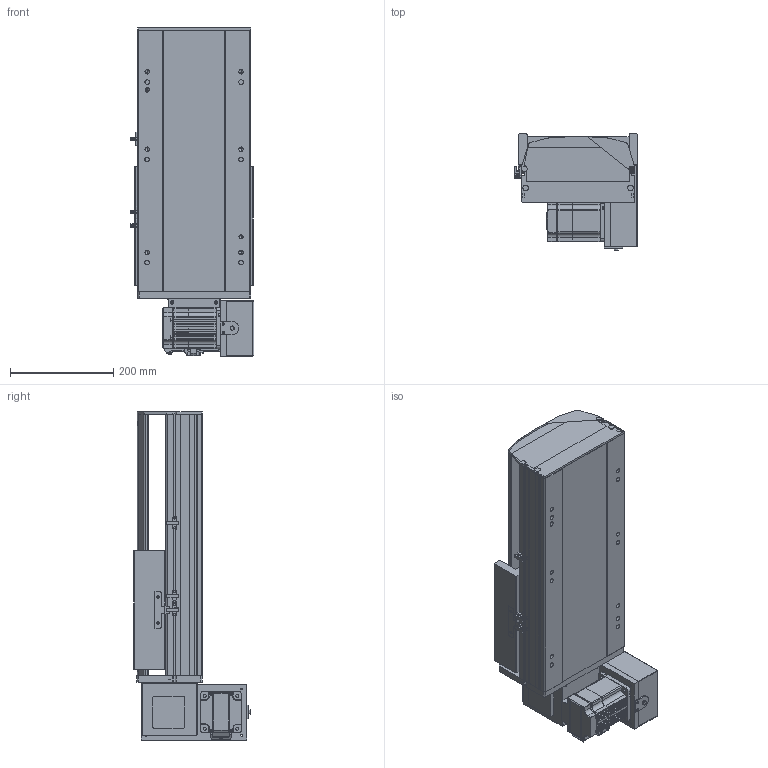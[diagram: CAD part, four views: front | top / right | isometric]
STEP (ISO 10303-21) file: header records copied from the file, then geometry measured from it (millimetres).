
FILE_DESCRIPTION (( 'STEP AP214' ), '1' );
FILE_NAME ('TPT22M-L40-150-LD-T75-C4.STEP', '2023-04-12T00:22:53', ( '' ), ( '' ), 'SwSTEP 2.0', 'SolidWorks 2020', '' );
FILE_SCHEMA (( 'AUTOMOTIVE_DESIGN' ));
Length unit declared in the file: millimetre
Products named in the file (9): 葩璃 TPT22-L-009 萇儂啣^TPT22M-L40-LD-T75-C4; 葩璃 TPT22-L-001 菁釱MZ-220-01^TPT22M-L40-LD-T75-C4; TPT22M-L40-150-LD-T75-C4; 葩璃 pm-t65-672^TPT22M-L40-LD-T75-C4; 葩璃 TPT22-L-005 賑釱MZ-220-03^TPT22M-L40-LD-T75-C4; hexagon head bolts-full thread gb_GB_FASTENER_BOLT_STBAB A M5X16-N; 葩璃 TPT22-L-002 奻裔MZ-220-02^TPT22M-L40-LD-T75-C4; 葩璃 TPT22-L-007 々湍釱^TPT22M-L40-LD-T75-C4; 葩璃 MSMD08PC_P75^TPT22M-L40-LD-T75-C4
Assembly tree (10 placements, depth 2):
  TPT22M-L40-150-LD-T75-C4
    葩璃 TPT22-L-001 菁釱MZ-220-01^TPT22M-L40-LD-T75-C4
    葩璃 TPT22-L-002 奻裔MZ-220-02^TPT22M-L40-LD-T75-C4
    葩璃 TPT22-L-005 賑釱MZ-220-03^TPT22M-L40-LD-T75-C4
    葩璃 TPT22-L-007 々湍釱^TPT22M-L40-LD-T75-C4
    葩璃 TPT22-L-009 萇儂啣^TPT22M-L40-LD-T75-C4
    葩璃 pm-t65-672^TPT22M-L40-LD-T75-C4  x3
    葩璃 MSMD08PC_P75^TPT22M-L40-LD-T75-C4
    hexagon head bolts-full thread gb_GB_FASTENER_BOLT_STBAB A M5X16-N
Bounding box: 239.2 x 225.65 x 636 mm (x, y, z)
Volume: 9729624.5 mm3; surface area: 1246513.4 mm2
Topology: 17 solids, 17 shells, 1691 faces, 4485 edges, 2881 vertices
Faces by surface type: plane 969, cylinder 596, cone 104, bspline 22
Entity records: 48267 total; most frequent: CARTESIAN_POINT 9965, DIRECTION 7720, ORIENTED_EDGE 7546, EDGE_CURVE 3773, AXIS2_PLACEMENT_3D 2607, VECTOR 2506, LINE 2506, VERTEX_POINT 2453
